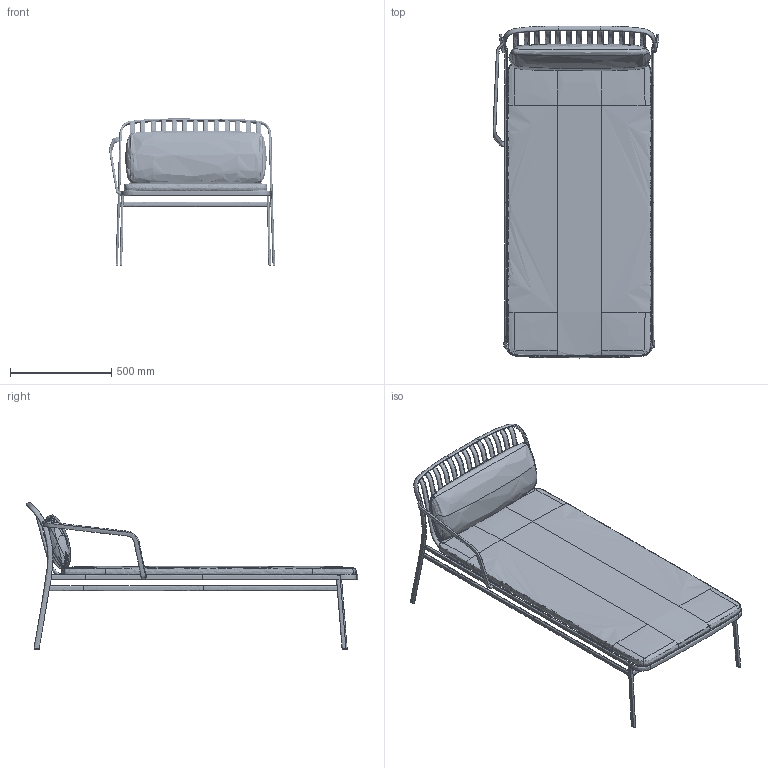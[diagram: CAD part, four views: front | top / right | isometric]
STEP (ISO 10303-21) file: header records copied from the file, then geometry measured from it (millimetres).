
FILE_DESCRIPTION(/* description */ (''),/* implementation_level */ '2;1');
FILE_NAME(/* name */ 'KANDMB~1',/* time_stamp */ '2021-10-15T08:06:32+02:00',/* author */ (''),/* organization */ (''),/* preprocessor_version */ 'ST-DEVELOPER v16.5',/* originating_system */ '',/* authorisation */ '');
FILE_SCHEMA (('AUTOMOTIVE_DESIGN'));
Products named in the file (1): Document
Bounding box: 818.85 x 1637.75 x 725.76 mm (x, y, z)
Volume: 52844366.8 mm3; surface area: 4876900.4 mm2
Topology: 25 solids, 27 shells, 271 faces, 531 edges, 311 vertices
Faces by surface type: bspline 244, plane 27
Entity records: 367301 total; most frequent: CARTESIAN_POINT 363980, ORIENTED_EDGE 1046, EDGE_CURVE 531, VERTEX_POINT 311, ADVANCED_FACE 271, FACE_OUTER_BOUND 271, EDGE_LOOP 271, B_SPLINE_CURVE_WITH_KNOTS 270
